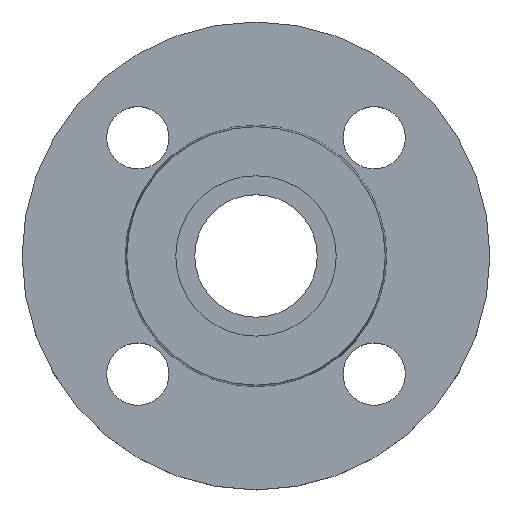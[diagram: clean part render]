
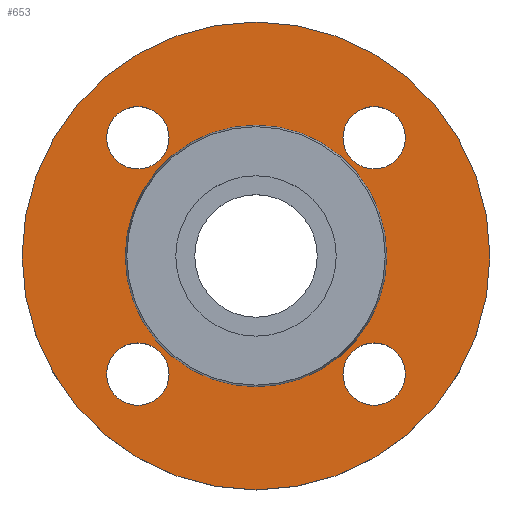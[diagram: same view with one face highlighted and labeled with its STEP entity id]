
A CAD part, top view. The second image highlights one B-rep face of the part: STEP entity #653.
In plain terms, the highlighted planar face has unit normal (0, 0, 1).
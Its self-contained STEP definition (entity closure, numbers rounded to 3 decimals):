
#10 = VERTEX_POINT ( 'NONE', #660 ) ;
#19 = EDGE_LOOP ( 'NONE', ( #181, #178 ) ) ;
#20 = CARTESIAN_POINT ( 'NONE',  ( -26.517, 26.517, -2. ) ) ;
#22 = CARTESIAN_POINT ( 'NONE',  ( -33.517, -26.517, -2. ) ) ;
#25 = VERTEX_POINT ( 'NONE', #166 ) ;
#34 = AXIS2_PLACEMENT_3D ( 'NONE', #513, #511, #509 ) ;
#57 = AXIS2_PLACEMENT_3D ( 'NONE', #95, #94, #91 ) ;
#60 = CIRCLE ( 'NONE', #57, 7. ) ;
#68 = EDGE_CURVE ( 'NONE', #295, #10, #217, .T. ) ;
#69 = CIRCLE ( 'NONE', #290, 7. ) ;
#80 = AXIS2_PLACEMENT_3D ( 'NONE', #531, #529, #528 ) ;
#81 = CIRCLE ( 'NONE', #80, 7. ) ;
#89 = VERTEX_POINT ( 'NONE', #233 ) ;
#91 = DIRECTION ( 'NONE',  ( 1., 0., 0. ) ) ;
#94 = DIRECTION ( 'NONE',  ( 0., 0., -1. ) ) ;
#95 = CARTESIAN_POINT ( 'NONE',  ( 26.517, -26.517, -2. ) ) ;
#99 = CARTESIAN_POINT ( 'NONE',  ( 52.5, 0., -2. ) ) ;
#107 = CIRCLE ( 'NONE', #478, 52.5 ) ;
#111 = CARTESIAN_POINT ( 'NONE',  ( 33.517, 26.517, -2. ) ) ;
#112 = CARTESIAN_POINT ( 'NONE',  ( -52.5, 0., -2. ) ) ;
#116 = DIRECTION ( 'NONE',  ( 1., 0., 0. ) ) ;
#124 = CARTESIAN_POINT ( 'NONE',  ( -19.517, -26.517, -2. ) ) ;
#127 = DIRECTION ( 'NONE',  ( -1., 0., 0. ) ) ;
#132 = CARTESIAN_POINT ( 'NONE',  ( 19.517, 26.517, -2. ) ) ;
#146 = DIRECTION ( 'NONE',  ( 0., 0., -1. ) ) ;
#148 = CARTESIAN_POINT ( 'NONE',  ( 0., 0., -2. ) ) ;
#162 = EDGE_CURVE ( 'NONE', #89, #291, #319, .T. ) ;
#163 = EDGE_CURVE ( 'NONE', #25, #392, #406, .T. ) ;
#166 = CARTESIAN_POINT ( 'NONE',  ( 29.353, 0., -2. ) ) ;
#168 = ORIENTED_EDGE ( 'NONE', *, *, #388, .F. ) ;
#169 = AXIS2_PLACEMENT_3D ( 'NONE', #422, #421, #419 ) ;
#172 = VERTEX_POINT ( 'NONE', #132 ) ;
#176 = DIRECTION ( 'NONE',  ( 0., 0., -1. ) ) ;
#177 = ORIENTED_EDGE ( 'NONE', *, *, #477, .F. ) ;
#178 = ORIENTED_EDGE ( 'NONE', *, *, #163, .T. ) ;
#179 = VERTEX_POINT ( 'NONE', #112 ) ;
#181 = ORIENTED_EDGE ( 'NONE', *, *, #342, .T. ) ;
#182 = ORIENTED_EDGE ( 'NONE', *, *, #387, .T. ) ;
#183 = DIRECTION ( 'NONE',  ( 1., 0., 0. ) ) ;
#185 = ORIENTED_EDGE ( 'NONE', *, *, #530, .T. ) ;
#188 = ORIENTED_EDGE ( 'NONE', *, *, #504, .T. ) ;
#189 = ORIENTED_EDGE ( 'NONE', *, *, #162, .T. ) ;
#190 = VERTEX_POINT ( 'NONE', #111 ) ;
#191 = ORIENTED_EDGE ( 'NONE', *, *, #557, .T. ) ;
#194 = ORIENTED_EDGE ( 'NONE', *, *, #68, .T. ) ;
#197 = ORIENTED_EDGE ( 'NONE', *, *, #523, .T. ) ;
#201 = CIRCLE ( 'NONE', #34, 7. ) ;
#202 = ORIENTED_EDGE ( 'NONE', *, *, #224, .T. ) ;
#206 = EDGE_LOOP ( 'NONE', ( #185, #182 ) ) ;
#217 = CIRCLE ( 'NONE', #485, 7. ) ;
#221 = VERTEX_POINT ( 'NONE', #99 ) ;
#224 = EDGE_CURVE ( 'NONE', #10, #295, #60, .T. ) ;
#233 = CARTESIAN_POINT ( 'NONE',  ( -19.517, 26.517, -2. ) ) ;
#237 = EDGE_LOOP ( 'NONE', ( #189, #188 ) ) ;
#248 = EDGE_LOOP ( 'NONE', ( #197, #191 ) ) ;
#250 = CARTESIAN_POINT ( 'NONE',  ( 26.517, -26.517, -2. ) ) ;
#256 = DIRECTION ( 'NONE',  ( 0., 0., -1. ) ) ;
#273 = CIRCLE ( 'NONE', #383, 7. ) ;
#288 = VERTEX_POINT ( 'NONE', #22 ) ;
#290 = AXIS2_PLACEMENT_3D ( 'NONE', #501, #500, #499 ) ;
#291 = VERTEX_POINT ( 'NONE', #657 ) ;
#295 = VERTEX_POINT ( 'NONE', #644 ) ;
#307 = VERTEX_POINT ( 'NONE', #124 ) ;
#308 = EDGE_LOOP ( 'NONE', ( #177, #168 ) ) ;
#318 = EDGE_LOOP ( 'NONE', ( #202, #194 ) ) ;
#319 = CIRCLE ( 'NONE', #420, 7. ) ;
#342 = EDGE_CURVE ( 'NONE', #392, #25, #353, .T. ) ;
#348 = AXIS2_PLACEMENT_3D ( 'NONE', #626, #624, #623 ) ;
#353 = CIRCLE ( 'NONE', #348, 29.353 ) ;
#383 = AXIS2_PLACEMENT_3D ( 'NONE', #480, #479, #474 ) ;
#387 = EDGE_CURVE ( 'NONE', #172, #190, #397, .T. ) ;
#388 = EDGE_CURVE ( 'NONE', #179, #221, #107, .T. ) ;
#392 = VERTEX_POINT ( 'NONE', #599 ) ;
#397 = CIRCLE ( 'NONE', #408, 7. ) ;
#404 = AXIS2_PLACEMENT_3D ( 'NONE', #148, #146, #127 ) ;
#406 = CIRCLE ( 'NONE', #404, 29.353 ) ;
#408 = AXIS2_PLACEMENT_3D ( 'NONE', #609, #608, #607 ) ;
#419 = DIRECTION ( 'NONE',  ( 1., 0., 0. ) ) ;
#420 = AXIS2_PLACEMENT_3D ( 'NONE', #20, #176, #116 ) ;
#421 = DIRECTION ( 'NONE',  ( 0., 0., 1. ) ) ;
#422 = CARTESIAN_POINT ( 'NONE',  ( 29.353, 0., -2. ) ) ;
#423 = PLANE ( 'NONE',  #169 ) ;
#425 = FACE_OUTER_BOUND ( 'NONE', #308, .T. ) ;
#426 = FACE_BOUND ( 'NONE', #19, .T. ) ;
#427 = FACE_BOUND ( 'NONE', #206, .T. ) ;
#428 = FACE_BOUND ( 'NONE', #237, .T. ) ;
#429 = FACE_BOUND ( 'NONE', #248, .T. ) ;
#431 = FACE_BOUND ( 'NONE', #318, .T. ) ;
#474 = DIRECTION ( 'NONE',  ( 1., 0., 0. ) ) ;
#477 = EDGE_CURVE ( 'NONE', #221, #179, #666, .T. ) ;
#478 = AXIS2_PLACEMENT_3D ( 'NONE', #606, #605, #604 ) ;
#479 = DIRECTION ( 'NONE',  ( 0., 0., -1. ) ) ;
#480 = CARTESIAN_POINT ( 'NONE',  ( -26.517, -26.517, -2. ) ) ;
#485 = AXIS2_PLACEMENT_3D ( 'NONE', #250, #256, #183 ) ;
#499 = DIRECTION ( 'NONE',  ( 1., 0., 0. ) ) ;
#500 = DIRECTION ( 'NONE',  ( 0., 0., -1. ) ) ;
#501 = CARTESIAN_POINT ( 'NONE',  ( 26.517, 26.517, -2. ) ) ;
#504 = EDGE_CURVE ( 'NONE', #291, #89, #81, .T. ) ;
#509 = DIRECTION ( 'NONE',  ( 1., 0., 0. ) ) ;
#511 = DIRECTION ( 'NONE',  ( 0., 0., -1. ) ) ;
#513 = CARTESIAN_POINT ( 'NONE',  ( -26.517, -26.517, -2. ) ) ;
#523 = EDGE_CURVE ( 'NONE', #307, #288, #201, .T. ) ;
#528 = DIRECTION ( 'NONE',  ( 1., 0., 0. ) ) ;
#529 = DIRECTION ( 'NONE',  ( 0., 0., -1. ) ) ;
#530 = EDGE_CURVE ( 'NONE', #190, #172, #69, .T. ) ;
#531 = CARTESIAN_POINT ( 'NONE',  ( -26.517, 26.517, -2. ) ) ;
#551 = DIRECTION ( 'NONE',  ( -1., 0., 0. ) ) ;
#552 = DIRECTION ( 'NONE',  ( 0., 0., -1. ) ) ;
#553 = CARTESIAN_POINT ( 'NONE',  ( 0., 0., -2. ) ) ;
#557 = EDGE_CURVE ( 'NONE', #288, #307, #273, .T. ) ;
#599 = CARTESIAN_POINT ( 'NONE',  ( -29.353, 0., -2. ) ) ;
#604 = DIRECTION ( 'NONE',  ( -1., 0., 0. ) ) ;
#605 = DIRECTION ( 'NONE',  ( 0., 0., -1. ) ) ;
#606 = CARTESIAN_POINT ( 'NONE',  ( 0., 0., -2. ) ) ;
#607 = DIRECTION ( 'NONE',  ( 1., 0., 0. ) ) ;
#608 = DIRECTION ( 'NONE',  ( 0., 0., -1. ) ) ;
#609 = CARTESIAN_POINT ( 'NONE',  ( 26.517, 26.517, -2. ) ) ;
#623 = DIRECTION ( 'NONE',  ( -1., 0., 0. ) ) ;
#624 = DIRECTION ( 'NONE',  ( 0., 0., -1. ) ) ;
#626 = CARTESIAN_POINT ( 'NONE',  ( 0., 0., -2. ) ) ;
#644 = CARTESIAN_POINT ( 'NONE',  ( 19.517, -26.517, -2. ) ) ;
#653 = ADVANCED_FACE ( 'NONE', ( #431, #429, #428, #427, #426, #425 ), #423, .T. ) ;
#657 = CARTESIAN_POINT ( 'NONE',  ( -33.517, 26.517, -2. ) ) ;
#660 = CARTESIAN_POINT ( 'NONE',  ( 33.517, -26.517, -2. ) ) ;
#666 = CIRCLE ( 'NONE', #668, 52.5 ) ;
#668 = AXIS2_PLACEMENT_3D ( 'NONE', #553, #552, #551 ) ;
